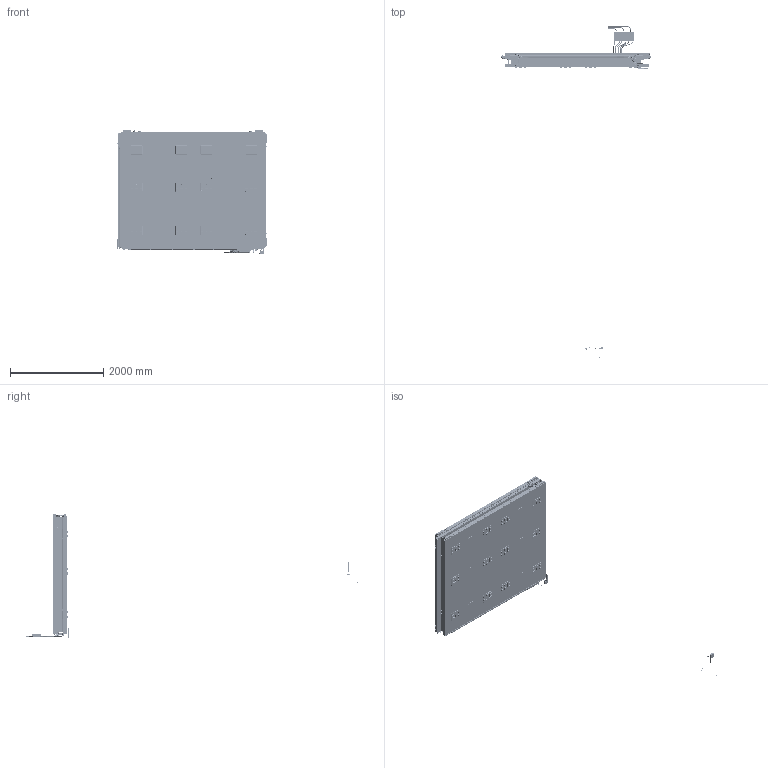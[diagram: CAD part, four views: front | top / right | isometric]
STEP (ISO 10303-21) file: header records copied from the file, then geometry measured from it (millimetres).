
FILE_DESCRIPTION(/* description */ (''),/* implementation_level */ '2;1');
FILE_NAME(/* name */ 'mb3_-2_3_4_L.stp',/* time_stamp */ '2017-05-19T11:25:01+02:00',/* author */ (''),/* organization */ (''),/* preprocessor_version */ 'ST-DEVELOPER v16',/* originating_system */ 'SIEMENS PLM Software NX 10.0',/* authorisation */ '');
FILE_SCHEMA (('AUTOMOTIVE_DESIGN { 1 0 10303 214 3 1 1 1 }'));
Products named in the file (210): BLK707; BLK706; BLK705; BLK704; piastra_0011_spess; piastra_0011; spina_5x26; elicoil; connett_fe_littl; power_supply_model; tappo1_4; connett_test_p; mb45_phi_lam_vars; mb3c_phi_lam_vars; mb3_phi_lam_vars; mb2c_th_lam_vars; mb2c_phi_lam_vars; mb2_th_lam_vars; mb2_phi_lam_vars; mb3c_th_lam_vars; mb45c_phi_lam_vars; mb3_th_lam_vars; mb48_phi_lam_vars; mb1_phi_lam_vars; mb1_th_lam_vars; mb49_phi_lam_vars; mb1c_phi_lam_vars; mb1c_th_lam_vars; cover_new2; axis; tappo1_8; colon_front_000308; block_sh12_000301; txt_2_lung; BLK680; BLK679; BLK678; BLK677; BLK675; BLK674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
Assembly tree (455 placements, depth 7):
  030930_mb3_-2_3_4_phi_L_carters
    mb3_-2_3_4_ass
      mb3_-2_3_4_ch
        mb3_phi_superlay  x2
          mb3_q1_ass_lamiere
            mb3_q1_b1
            mb3_q1_b1_up
            cms_mb_02_019  x4
          mb3_q1_ass_lateral
            as_angle  x2
              block_sh12_000301
              colon_front_000308
            cms_mb_02_014
          vite_m4
          mb3_q1_cover_hv_ass
            cms_mb_02_028
            cms_mb_02_023
              tappo1_8  x2
              axis  x43
            as_hv_conn_cover  x2
              cover_new2
          vars
            mb1c_th_vars
              mb1c_th_lam_vars
            mb1c_phi_vars
              mb1c_phi_lam_vars
            mb49_phi_vars
              mb49_phi_lam_vars
            mb1_th_vars
              mb1_th_lam_vars
            mb1_phi_vars
              mb1_phi_lam_vars
            mb48_phi_vars
              mb48_phi_lam_vars
            mb3_th_vars
              mb3_th_lam_vars
            mb45c_phi_vars
              mb45c_phi_lam_vars
            mb3c_th_vars
              mb3c_th_lam_vars
            mb2_phi_vars
              mb2_phi_lam_vars
            mb2_th_vars
              mb2_th_lam_vars
            mb2c_phi_vars
              mb2c_phi_lam_vars
            mb2c_th_vars
              mb2c_th_lam_vars
            mb3_phi_vars
              mb3_phi_lam_vars
            mb3c_phi_vars
              mb3c_phi_lam_vars
            mb45_phi_vars
              mb45_phi_lam_vars
          3054_ass
            3054_cms_mb_02_044
              axis  x47
              connett_test_p  x5
              tappo1_4  x2
              tappo1_8  x2
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Bounding box: 3212.36 x 7120.11 x 2646.02 mm (x, y, z)
Volume: 2228780732.2 mm3; surface area: 221997573.1 mm2
Topology: 248 solids, 676 shells, 16159 faces, 50971 edges, 41548 vertices
Faces by surface type: plane 9682, cylinder 4692, cone 1275, torus 292, bspline 173, sphere 45
Full cylindrical faces by diameter (mm): 1 x251, 1.675 x12, 2.594 x54, 3 x72, 3.2 x12, 3.25 x4, 3.3 x36, 3.432 x525, 3.5 x54, 3.778 x7, 4 x35, 4.8 x2, 5 x39, 5.188 x56, 5.5 x284, 6 x38, 6.4 x27, 6.5 x2, 7 x3, 7.5 x72, 8 x66, 8.6 x6, 8.782 x28, 8.8 x20, 8.933 x24, 8.985 x24, 9 x2, 9.061 x2, 9.391 x16, 9.5 x3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
Entity records: 355513 total; most frequent: CARTESIAN_POINT 104754, ORIENTED_EDGE 42419, DIRECTION 40613, EDGE_CURVE 21734, AXIS2_PLACEMENT_3D 14970, VERTEX_POINT 13787, EDGE_LOOP 12205, B_SPLINE_CURVE_WITH_KNOTS 11223
